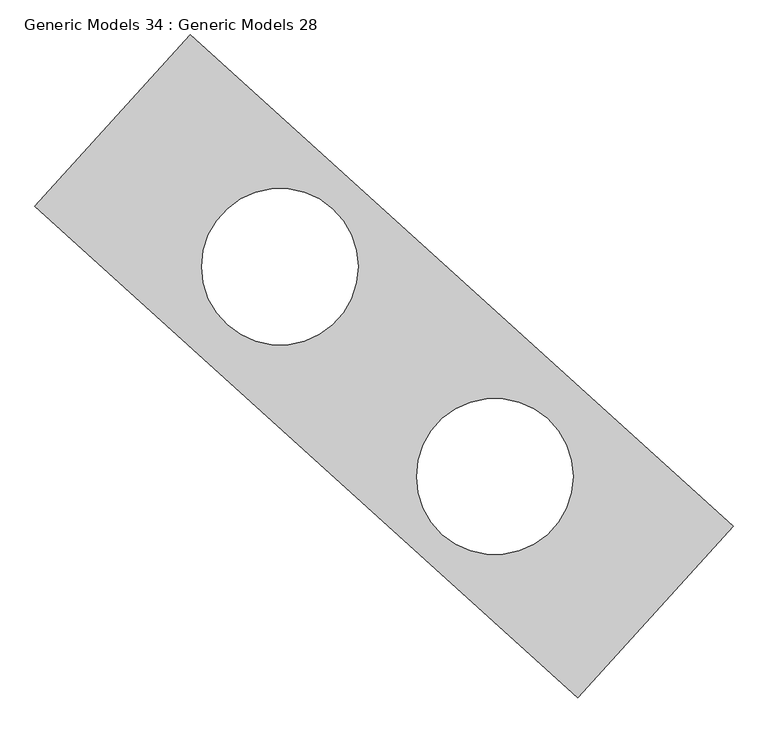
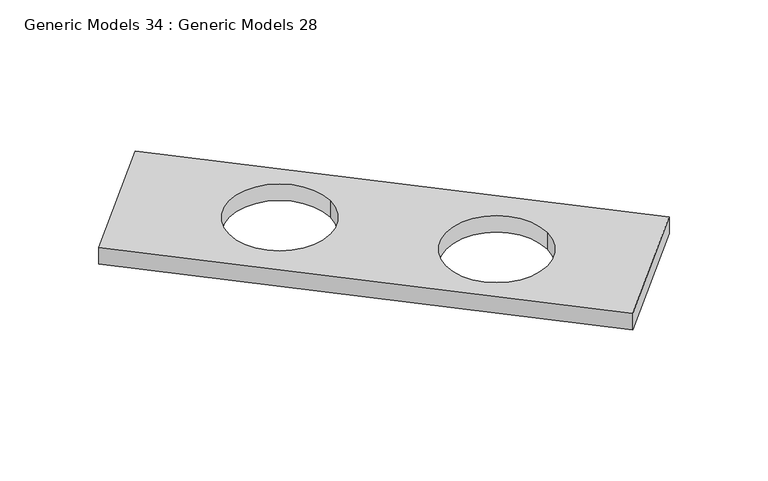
"""IFC4 building model written with IfcOpenShell, lengths in millimetres: proxy geometry, Generic Models 34 : Generic Models 28."""

from ifc_helpers import new_model, si_unit, point, frame, frame_2d, origin, place, context, project, spatial, polyline, circle_curve, trimmed, segment, composite_curve, outline, extrude, source, transform, mapped, element, save


def generic_models_34_generic_models_28_392a1334(model_context):
    return source(origin(), model_context, "Body", "SweptSolid", [
        extrude(outline(polyline([(-9659.479802, 2317.5102974), (-8250.9620566, 1042.2788909), (-8653.6819256, 597.5129884), (-10062.1767943, 1872.723683), (-9659.479802, 2317.5102974)]), holes=[composite_curve([segment(trimmed(circle_curve(frame_2d((-9426.4982995, 1716.1672165)), 203.0), [point((-9629.4982995, 1716.1672165))], [point((-9223.4982995, 1716.1672165))], True, "CARTESIAN"), True, "CONTINUOUS"), segment(trimmed(circle_curve(frame_2d((-9426.4982995, 1716.1672165)), 203.0), [point((-9223.4982995, 1716.1672165))], [point((-9629.4982995, 1716.1672165))], True, "CARTESIAN"), True, "CONTINUOUS")], self_intersect=False), composite_curve([segment(trimmed(circle_curve(frame_2d((-8869.1235979, 1171.9297127)), 203.0), [point((-9072.1235979, 1171.9297127))], [point((-8666.1235979, 1171.9297127))], True, "CARTESIAN"), True, "CONTINUOUS"), segment(trimmed(circle_curve(frame_2d((-8869.1235979, 1171.9297127)), 203.0), [point((-8666.1235979, 1171.9297127))], [point((-9072.1235979, 1171.9297127))], True, "CARTESIAN"), True, "CONTINUOUS")], self_intersect=False)]), frame((0.0, 0.0, 730.0), z_axis=(0.0, 0.0, 1.0), x_axis=(1.0, 0.0, 0.0)), (0.0, 0.0, 1.0), 70.0),
    ])


if __name__ == "__main__":
    model = new_model("IFC4")
    model_context = context("Model", 3, world=origin())
    ifc_project = project(units=[si_unit("LENGTHUNIT", "METRE", prefix="MILLI")], contexts=[model_context])
    site = spatial("IfcSite", under=ifc_project)
    building = spatial("IfcBuilding", under=site)
    placement = place(None, origin())
    generic_models_34_generic_models_28_shape = generic_models_34_generic_models_28_392a1334(model_context)
    element("IfcBuildingElementProxy", 1, Name="Generic Models 34 : Generic Models 28", ObjectType="Generic Models 34 : Generic Models 28", at=placement, inside=building, context=model_context, shape_type="MappedRepresentation", body=[
        mapped(generic_models_34_generic_models_28_shape, transform((0.0, 0.0, 0.0), x_axis=(1.0, 0.0, 0.0), y_axis=(0.0, 1.0, 0.0), z_axis=(0.0, 0.0, 1.0))),
    ])
    save(model, "model.ifc")
